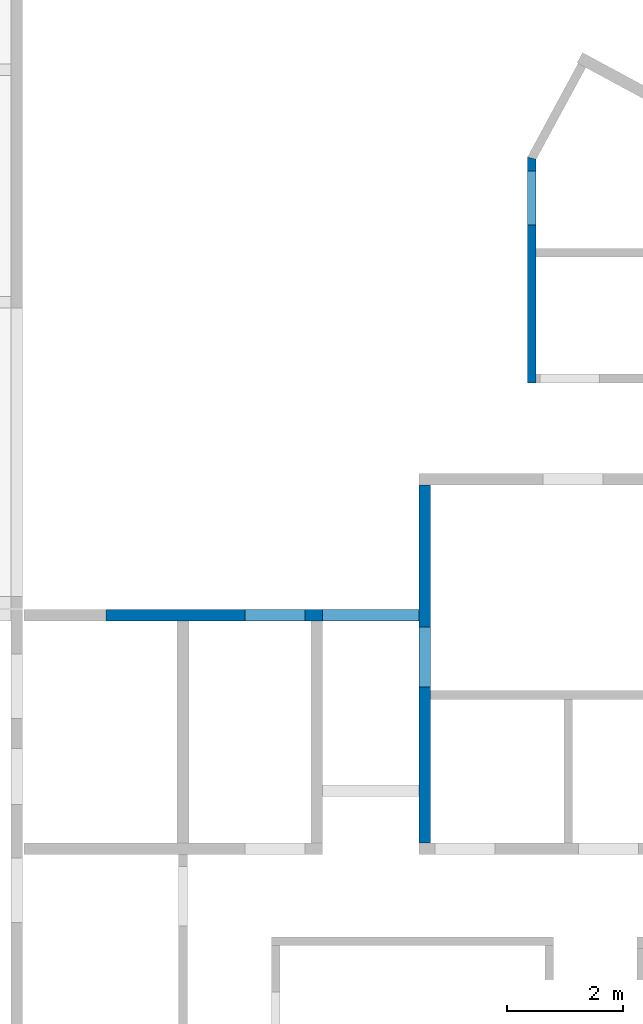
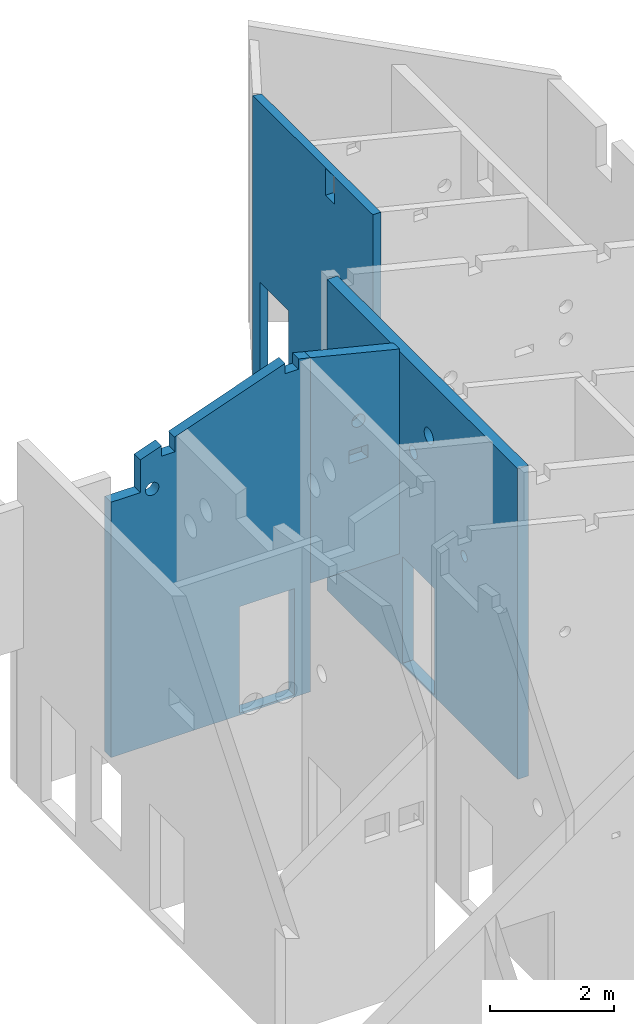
# One storey, part 10 of 13: 4 walls, 14 openings.
"""IFC2X3 building model written with IfcOpenShell, lengths in metres."""

from ifc_helpers import new_model, entity, si_unit, converted_unit, direction, frame, frame_2d, origin, origin_with_axes, place, context, subcontext, project, spatial, polyline, rectangle, outline, extrude, clip, halfspace, bounded_halfspace, material, layer, layer_set, layer_usage, element, save


model = new_model("IFC2X3")

# Units and contexts
model_context = context("Model", 3, precision=1e-05, world=origin(), true_north=direction((-0.407059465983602, -0.913401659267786)))
body_context = subcontext(model_context, "Body", "Model", "MODEL_VIEW")
ifc_project = project(units=[si_unit("LENGTHUNIT", "METRE"), si_unit("AREAUNIT", "SQUARE_METRE"), si_unit("VOLUMEUNIT", "CUBIC_METRE"), si_unit("MASSUNIT", "GRAM", prefix="KILO"), converted_unit("PLANEANGLEUNIT", "DEGREE", entity("IfcPlaneAngleMeasure", 0.0174532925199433), si_unit("PLANEANGLEUNIT", "RADIAN"), dimensions=[0, 0, 0, 0, 0, 0, 0])], contexts=[model_context])

# Site, buildings, storey
site_placement = place(None, origin())
site = spatial("IfcSite", under=ifc_project, at=site_placement, Name="Site", CompositionType="ELEMENT")
building_1_placement = place(site_placement, origin())
building_1 = spatial("IfcBuilding", under=site, at=building_1_placement, Name="Site", CompositionType="COMPLEX")
building_2_placement = place(building_1_placement, origin())
building_2 = spatial("IfcBuilding", under=building_1, at=building_2_placement, Name="Bâtiments", CompositionType="ELEMENT")
storey_placement = place(building_2_placement, frame((0.0, 0.0, -0.14)))
storey = spatial("IfcBuildingStorey", under=building_2, at=storey_placement, Name="RDC", CompositionType="ELEMENT", Elevation=-0.14)

# Wall, openings
ifc_material_1 = material(Name="Mur_Maconnerie")
ifc_layer_1 = layer(ifc_material_1, 0.15)
ifc_layer_set_1 = layer_set([ifc_layer_1])
ifc_layer_usage_1 = layer_usage(ifc_layer_set_1, "AXIS2", "POSITIVE", 0.0)
wall_1_placement = place(storey_placement, frame((72.1039888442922, 2.54981542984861, 0.02), z_axis=(0.0, 0.0, 1.0), x_axis=(0.0, -1.0, 0.0)))
wall_1 = element("IfcWallStandardCase", 1, at=wall_1_placement, inside=storey, material=ifc_layer_usage_1, context=body_context, shape_type="SweptSolid", body=[
    extrude(outline(polyline([(-3.88498872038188, 0.0), (0.0, 0.0), (0.0, 0.15), (-3.84703946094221, 0.15), (-3.88498872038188, 0.0)])), frame((3.88498872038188, 0.0, 0.0), z_axis=(0.0, 0.0, 1.0), x_axis=(1.0, 0.0, 0.0)), (0.0, 0.0, 1.0), 5.764675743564),
])
opening_1_placement = place(wall_1_placement, frame((2.35183954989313, 0.0, 5.22), z_axis=(0.0, 1.0, 0.0), x_axis=(0.0, 0.0, 1.0)))
element("IfcOpeningElement", 2, at=opening_1_placement, cuts=wall_1, Name="Percement dans mur", ObjectType="Opening", context=body_context, shape_type="SweptSolid", body=[
    extrude(outline(polyline([(0.0, 0.3), (0.54, 0.3), (0.54, 0.0), (0.0, 0.0), (0.0, 0.3)])), origin_with_axes(), (0.0, 0.0, 1.0), 0.15),
])
opening_2_placement = place(wall_1_placement, frame((0.236136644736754, 0.0, 0.12), z_axis=(0.0, 1.0, 0.0), x_axis=(0.0, 0.0, 1.0)))
element("IfcOpeningElement", 3, at=opening_2_placement, cuts=wall_1, Name="Baie de porte", ObjectType="Opening", context=body_context, shape_type="SweptSolid", body=[
    extrude(outline(polyline([(0.0, 0.93), (2.1, 0.93), (2.1, 0.0), (0.0, 0.0), (0.0, 0.93)])), origin_with_axes(), (0.0, 0.0, 1.0), 0.15),
])

ifc_material_2 = material(Name="Mur_Maconnerie")
ifc_layer_2 = layer(ifc_material_2, 0.2)
ifc_layer_set_2 = layer_set([ifc_layer_2])
ifc_layer_usage_2 = layer_usage(ifc_layer_set_2, "AXIS2", "POSITIVE", 0.0)
wall_2_placement = place(storey_placement, frame((70.2328423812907, -3.0956538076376, 0.1), z_axis=(0.0, 0.0, 1.0), x_axis=(0.0, -1.0, 0.0)))
wall_2 = element("IfcWallStandardCase", 4, at=wall_2_placement, inside=storey, material=ifc_layer_usage_2, context=body_context, shape_type="SweptSolid", body=[
    extrude(outline(polyline([(-6.16179983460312, 0.0), (-1.50847238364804e-06, 0.0), (0.0, 0.2), (-6.16180875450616, 0.2), (-6.16179983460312, 0.0)])), frame((6.16179983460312, 0.0, 0.0), z_axis=(0.0, 0.0, 1.0), x_axis=(1.0, 0.0, 0.0)), (0.0, 0.0, 1.0), 6.13199221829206),
])
opening_3_placement = place(wall_2_placement, frame((4.33431864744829, 0.0, 3.26), z_axis=(0.0, 1.0, 0.0), x_axis=(0.0, 0.0, 1.0)))
element("IfcOpeningElement", 5, at=opening_3_placement, cuts=wall_2, Name="CVC-087", ObjectType="Opening", context=body_context, shape_type="SweptSolid", body=[
    extrude(outline(polyline([(0.0999999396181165, 0.0), (0.0895470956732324, 0.000547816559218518), (0.0792087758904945, 0.00218525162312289), (0.0690982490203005, 0.00489436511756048), (0.0593262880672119, 0.00864547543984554), (0.0499999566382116, 0.0133974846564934), (0.0412214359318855, 0.0190983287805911), (0.0330869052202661, 0.0256855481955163), (0.0256854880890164, 0.0330869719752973), (0.0190982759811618, 0.0412215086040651), (0.0133974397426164, 0.0500000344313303), (0.0086454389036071, 0.0593263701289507), (0.00489433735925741, 0.0690983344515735), (0.00218523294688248, 0.0792088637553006), (0.000547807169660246, 0.0895471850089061), (0.0, 0.100000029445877), (0.000547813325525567, 0.110452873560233), (0.00218524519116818, 0.120791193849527), (0.00489435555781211, 0.130901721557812), (0.0086454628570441, 0.140673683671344), (0.0133974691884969, 0.150000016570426), (0.0190983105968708, 0.158778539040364), (0.0256855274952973, 0.166913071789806), (0.0330869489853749, 0.174314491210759), (0.0412214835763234, 0.180901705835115), (0.0500000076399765, 0.186602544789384), (0.0593263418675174, 0.191354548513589), (0.0690983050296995, 0.195105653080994), (0.0792088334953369, 0.197814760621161), (0.0895471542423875, 0.199452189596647), (0.0999999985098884, 0.2), (0.110452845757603, 0.199452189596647), (0.120791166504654, 0.197814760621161), (0.130901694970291, 0.195105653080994), (0.140673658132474, 0.191354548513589), (0.149999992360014, 0.186602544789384), (0.158778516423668, 0.180901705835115), (0.166913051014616, 0.174314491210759), (0.174314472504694, 0.166913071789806), (0.18090168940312, 0.158778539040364), (0.186602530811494, 0.150000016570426), (0.191354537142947, 0.140673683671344), (0.195105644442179, 0.130901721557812), (0.197814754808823, 0.120791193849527), (0.199452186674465, 0.110452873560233), (0.199999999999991, 0.100000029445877), (0.199452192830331, 0.0895471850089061), (0.197814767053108, 0.0792088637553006), (0.195105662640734, 0.0690983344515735), (0.191354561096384, 0.0593263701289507), (0.186602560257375, 0.0500000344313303), (0.180901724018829, 0.0412215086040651), (0.174314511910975, 0.0330869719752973), (0.166913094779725, 0.0256855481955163), (0.158778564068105, 0.0190983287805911), (0.150000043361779, 0.0133974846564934), (0.140673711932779, 0.00864547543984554), (0.13090175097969, 0.00489436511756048), (0.120791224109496, 0.00218525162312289), (0.110452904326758, 0.000547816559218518), (0.0999999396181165, 0.0)])), origin_with_axes(), (0.0, 0.0, 1.0), 0.2),
])
opening_4_placement = place(wall_2_placement, frame((2.66823580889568, 0.0, 4.29), z_axis=(0.0, 1.0, 0.0), x_axis=(0.0, 0.0, 1.0)))
element("IfcOpeningElement", 6, at=opening_4_placement, cuts=wall_2, Name="CVC-078", ObjectType="Opening", context=body_context, shape_type="SweptSolid", body=[
    extrude(outline(polyline([(0.124999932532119, 0.0), (0.111933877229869, 0.000684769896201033), (0.0990109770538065, 0.00273156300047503), (0.0863728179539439, 0.00611795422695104), (0.0741578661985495, 0.0108068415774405), (0.0624999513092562, 0.0167468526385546), (0.051526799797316, 0.0238729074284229), (0.0413586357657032, 0.0321069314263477), (0.0321068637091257, 0.0413587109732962), (0.0238728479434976, 0.0515268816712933), (0.0167468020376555, 0.0625000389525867), (0.01080680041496, 0.074157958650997), (0.00611792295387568, 0.0863729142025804), (0.00273154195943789, 0.0990110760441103), (0.000684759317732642, 0.111933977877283), (0.0, 0.125000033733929), (0.000684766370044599, 0.138066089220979), (0.00273155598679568, 0.150988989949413), (0.00611794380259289, 0.163627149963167), (0.0108068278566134, 0.175842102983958), (0.0167468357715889, 0.187500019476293), (0.0238728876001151, 0.198473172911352), (0.0321069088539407, 0.208641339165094), (0.0413586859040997, 0.217893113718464), (0.0515268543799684, 0.22612713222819), (0.0625000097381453, 0.233253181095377), (0.0741579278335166, 0.239193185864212), (0.0863728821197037, 0.243882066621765), (0.0990110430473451, 0.247268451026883), (0.111933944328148, 0.249315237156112), (0.124999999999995, 0.25), (0.138066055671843, 0.249315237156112), (0.150988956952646, 0.247268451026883), (0.163627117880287, 0.243882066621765), (0.175842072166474, 0.239193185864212), (0.187499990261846, 0.233253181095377), (0.198473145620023, 0.22612713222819), (0.208641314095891, 0.217893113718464), (0.21789309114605, 0.208641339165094), (0.226127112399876, 0.198473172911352), (0.233253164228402, 0.187500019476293), (0.239193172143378, 0.175842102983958), (0.243882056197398, 0.163627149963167), (0.247268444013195, 0.150988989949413), (0.249315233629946, 0.138066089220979), (0.249999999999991, 0.125000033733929), (0.249315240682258, 0.111933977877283), (0.247268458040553, 0.0990110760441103), (0.243882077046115, 0.0863729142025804), (0.239193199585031, 0.074157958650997), (0.233253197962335, 0.0625000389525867), (0.226127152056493, 0.0515268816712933), (0.217893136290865, 0.0413587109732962), (0.208641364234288, 0.0321069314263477), (0.198473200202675, 0.0238729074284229), (0.187500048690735, 0.0167468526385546), (0.175842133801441, 0.0108068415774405), (0.163627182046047, 0.00611795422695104), (0.150989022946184, 0.00273156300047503), (0.138066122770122, 0.000684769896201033), (0.124999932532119, 0.0)])), origin_with_axes(), (0.0, 0.0, 1.0), 0.2),
])
opening_5_placement = place(wall_2_placement, frame((3.14198179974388, 0.0, 4.89000000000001), z_axis=(0.0, 1.0, 0.0), x_axis=(0.0, 0.0, 1.0)))
element("IfcOpeningElement", 7, at=opening_5_placement, cuts=wall_2, Name="CVC-081", ObjectType="Opening", context=body_context, shape_type="SweptSolid", body=[
    extrude(outline(polyline([(0.149999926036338, 0.0), (0.134320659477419, 0.000821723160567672), (0.118813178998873, 0.00327787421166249), (0.103647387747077, 0.00734154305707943), (0.0889894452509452, 0.0129682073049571), (0.0749999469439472, 0.0200962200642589), (0.0618321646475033, 0.0286474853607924), (0.0496303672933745, 0.0385283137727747), (0.0385282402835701, 0.0496304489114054), (0.0286474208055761, 0.0618322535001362), (0.0200961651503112, 0.0750000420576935), (0.0129681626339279, 0.0889895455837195), (0.00734150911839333, 0.103647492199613), (0.0032778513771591, 0.118813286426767), (0.000821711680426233, 0.134320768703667), (0.0, 0.150000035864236), (0.000821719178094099, 0.16567930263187), (0.00327786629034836, 0.181186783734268), (0.00734153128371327, 0.196352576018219), (0.0129681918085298, 0.211010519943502), (0.0200962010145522, 0.225000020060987), (0.0286474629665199, 0.23816780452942), (0.0385282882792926, 0.25036960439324), (0.0496304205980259, 0.261471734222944), (0.0618322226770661, 0.271352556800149), (0.0750000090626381, 0.27990381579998), (0.0889895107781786, 0.287031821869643), (0.103647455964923, 0.29265847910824), (0.118813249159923, 0.296722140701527), (0.134320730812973, 0.2991782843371), (0.14999999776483, 0.3), (0.165679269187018, 0.2991782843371), (0.181186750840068, 0.296722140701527), (0.196352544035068, 0.29265847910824), (0.211010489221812, 0.287031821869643), (0.224999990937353, 0.27990381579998), (0.238167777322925, 0.271352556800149), (0.250369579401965, 0.261471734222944), (0.261471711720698, 0.25036960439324), (0.271352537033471, 0.23816780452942), (0.279903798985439, 0.225000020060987), (0.287031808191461, 0.211010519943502), (0.292658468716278, 0.196352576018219), (0.296722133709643, 0.181186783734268), (0.299178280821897, 0.16567930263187), (0.299999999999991, 0.150000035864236), (0.299178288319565, 0.134320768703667), (0.296722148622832, 0.118813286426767), (0.292658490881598, 0.103647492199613), (0.287031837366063, 0.0889895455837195), (0.27990383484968, 0.0750000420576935), (0.271352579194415, 0.0618322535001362), (0.261471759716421, 0.0496304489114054), (0.250369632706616, 0.0385283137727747), (0.238167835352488, 0.0286474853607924), (0.225000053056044, 0.0200962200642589), (0.211010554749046, 0.0129682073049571), (0.196352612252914, 0.00734154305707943), (0.181186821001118, 0.00327787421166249), (0.165679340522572, 0.000821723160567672), (0.149999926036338, 0.0)])), origin_with_axes(), (0.0, 0.0, 1.0), 0.2),
])
opening_6_placement = place(wall_2_placement, frame((3.47708316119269, 0.2, 0.04), z_axis=(0.0, -1.0, 0.0), x_axis=(0.0, 0.0, 1.0)))
element("IfcOpeningElement", 8, at=opening_6_placement, cuts=wall_2, Name="Baie de porte", ObjectType="Opening", context=body_context, shape_type="SweptSolid", body=[
    extrude(outline(polyline([(0.0, 1.03), (2.1, 1.03), (2.1, 0.0), (0.0, 0.0), (0.0, 1.03)])), origin_with_axes(), (0.0, 0.0, 1.0), 0.2),
])

ifc_material_3 = material(Name="Béton")
ifc_layer_3 = layer(ifc_material_3, 0.200000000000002)
ifc_layer_set_3 = layer_set([ifc_layer_3])
ifc_layer_usage_3 = layer_usage(ifc_layer_set_3, "AXIS2", "POSITIVE", -0.2)
wall_3_placement = place(storey_placement, frame((64.8473800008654, -5.43896696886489, 0.0999999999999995), z_axis=(0.0, 0.0, 1.0), x_axis=(1.0, 1.2205397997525e-15, 0.0)))
wall_3 = element("IfcWallStandardCase", 9, at=wall_3_placement, inside=storey, material=ifc_layer_usage_3, context=body_context, shape_type="Clipping", body=[
    clip(clip(clip(extrude(rectangle(XDim=3.7257887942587, YDim=0.200000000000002, at=frame_2d((1.86289439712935, 0.100000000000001), x_axis=(1.0, 0.0))), origin_with_axes(), (0.0, 0.0, 1.0), 6.67977521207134), bounded_halfspace(frame((1.76161150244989, 0.100000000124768, 6.11385859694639), z_axis=(0.334629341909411, -1.7905456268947e-15, -0.942349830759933), x_axis=(0.942349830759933, 2.12245910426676e-16, 0.334629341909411)), True, origin_with_axes(), polyline([(0.20992572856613, -2.56222706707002e-16), (3.35528952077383, 4.52209109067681e-16), (3.35528952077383, 0.200000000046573), (0.125941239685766, 0.200000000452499), (0.20992572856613, -2.56222706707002e-16)]))), bounded_halfspace(frame((0.0839667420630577, 0.100000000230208, 5.5478780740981), z_axis=(2.15176859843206e-06, -0.147291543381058, -0.989093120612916), x_axis=(0.999999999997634, -1.22053979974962e-15, 2.17549647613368e-06)), True, origin_with_axes(), polyline([(-7.27595761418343e-15, 8.88059584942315e-30), (0.20992572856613, -2.56222706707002e-16), (0.125941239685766, 0.200000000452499), (3.42214115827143e-13, 0.20000000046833), (-7.27595761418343e-15, 8.88059584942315e-30)]))), bounded_halfspace(frame((3.54053915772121, 0.100000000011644, 6.63427353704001), z_axis=(-0.238533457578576, 1.15160305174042e-15, -0.971134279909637), x_axis=(4.09876642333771e-09, 1.0, -1.00675151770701e-09)), True, origin_with_axes(), polyline([(3.7257887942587, 0.0), (3.72578879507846, 0.200000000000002), (3.35528952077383, 0.200000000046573), (3.35528952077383, 4.52209109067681e-16), (3.7257887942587, 0.0)]))),
])
opening_7_placement = place(wall_3_placement, frame((3.25139880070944, 5.79011867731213e-16, 6.44), z_axis=(2.27373675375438e-15, 1.0, 0.0), x_axis=(0.0, 0.0, 1.0)))
element("IfcOpeningElement", 10, at=opening_7_placement, cuts=wall_3, Name="Percement dans mur", ObjectType="Opening", context=body_context, shape_type="SweptSolid", body=[
    extrude(outline(polyline([(0.0, 0.25), (0.24, 0.25), (0.24, 0.0), (0.0, 0.0), (0.0, 0.25)])), origin_with_axes(), (0.0, 0.0, 1.0), 0.200000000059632),
])
opening_8_placement = place(wall_3_placement, frame((0.645786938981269, 1.03078074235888e-15, 4.91), z_axis=(1.13686837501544e-15, 1.0, 0.0), x_axis=(0.0, 0.0, 1.0)))
element("IfcOpeningElement", 11, at=opening_8_placement, cuts=wall_3, Name="CVC-126", ObjectType="Opening", context=body_context, shape_type="SweptSolid", body=[
    extrude(outline(polyline([(0.124999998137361, 0.0), (0.111933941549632, 0.000684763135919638), (0.0990110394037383, 0.00273154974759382), (0.0863728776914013, 0.00611793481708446), (0.0741579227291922, 0.0108068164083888), (0.0625000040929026, 0.0167468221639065), (0.0515268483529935, 0.0238728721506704), (0.04135867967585, 0.0321068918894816), (0.0321069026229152, 0.0413586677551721), (0.0238728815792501, 0.0515268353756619), (0.0167468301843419, 0.0624999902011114), (0.0108068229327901, 0.0741579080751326), (0.00611793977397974, 0.0863728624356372), (0.00273155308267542, 0.0990110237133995), (0.000684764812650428, 0.111933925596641), (0.0, 0.124999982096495), (0.000684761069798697, 0.138066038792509), (0.00273154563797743, 0.150988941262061), (0.00611792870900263, 0.163627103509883), (0.010806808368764, 0.175842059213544), (0.0167468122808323, 0.187499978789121), (0.0238728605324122, 0.19847313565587), (0.0321068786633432, 0.20864130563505), (0.0413586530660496, 0.21789308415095), (0.0515268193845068, 0.226127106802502), (0.0624999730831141, 0.233253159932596), (0.074157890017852, 0.239193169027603), (0.0863728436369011, 0.243882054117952), (0.0990110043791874, 0.247268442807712), (0.111933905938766, 0.249315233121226), (0.124999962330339, 0.250000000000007), (0.138066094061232, 0.249315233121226), (0.150988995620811, 0.247268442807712), (0.163627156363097, 0.243882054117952), (0.175842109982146, 0.239193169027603), (0.187500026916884, 0.233253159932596), (0.198473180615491, 0.226127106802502), (0.208641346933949, 0.21789308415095), (0.217893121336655, 0.20864130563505), (0.226127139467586, 0.19847313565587), (0.233253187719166, 0.187499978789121), (0.239193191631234, 0.175842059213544), (0.243882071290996, 0.163627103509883), (0.247268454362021, 0.150988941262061), (0.2493152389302, 0.138066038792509), (0.249999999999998, 0.124999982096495), (0.249315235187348, 0.111933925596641), (0.247268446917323, 0.0990110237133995), (0.243882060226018, 0.0863728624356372), (0.239193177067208, 0.0741579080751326), (0.233253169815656, 0.0624999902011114), (0.226127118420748, 0.0515268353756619), (0.217893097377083, 0.0413586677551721), (0.208641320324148, 0.0321068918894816), (0.198473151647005, 0.0238728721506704), (0.187499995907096, 0.0167468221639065), (0.175842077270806, 0.0108068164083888), (0.163627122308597, 0.00611793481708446), (0.15098896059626, 0.00273154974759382), (0.138066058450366, 0.000684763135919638), (0.124999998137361, 0.0)])), origin_with_axes(), (0.0, 0.0, 1.0), 0.200000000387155),
])
opening_9_placement = place(wall_3_placement, frame((0.946821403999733, 6.63356196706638e-16, 5.62), z_axis=(1.13686837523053e-15, 1.0, 0.0), x_axis=(0.0, 0.0, 1.0)))
element("IfcOpeningElement", 12, at=opening_9_placement, cuts=wall_3, Name="Percement dans mur", ObjectType="Opening", context=body_context, shape_type="SweptSolid", body=[
    extrude(outline(polyline([(0.0, 0.25), (0.29, 0.25), (0.29, 0.0), (0.0, 0.0), (0.0, 0.25)])), origin_with_axes(), (0.0, 0.0, 1.0), 0.200000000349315),
])
opening_10_placement = place(wall_3_placement, frame((7.27595761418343e-15, -8.88059584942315e-30, 5.04), z_axis=(1.2205397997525e-15, 1.0, 0.0), x_axis=(0.0, 0.0, 1.0)))
element("IfcOpeningElement", 13, at=opening_10_placement, cuts=wall_3, Name="Percement dans mur", ObjectType="Opening", context=body_context, shape_type="SweptSolid", body=[
    extrude(outline(polyline([(0.0, 0.549999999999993), (0.65, 0.549999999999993), (0.65, 0.0), (0.0, 0.0), (0.0, 0.549999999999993)])), origin_with_axes(), (0.0, 0.0, 1.0), 0.20000000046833),
])
opening_11_placement = place(wall_3_placement, frame((2.39578667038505, -1.95668877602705e-16, 0.0400000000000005), z_axis=(2.27373675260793e-15, 1.0, 0.0), x_axis=(0.0, 0.0, 1.0)))
element("IfcOpeningElement", 14, at=opening_11_placement, cuts=wall_3, Name="Baie de porte", ObjectType="Opening", context=body_context, shape_type="SweptSolid", body=[
    extrude(outline(polyline([(0.0, 1.03), (2.1, 1.03), (2.1, 0.0), (0.0, 0.0), (0.0, 1.03)])), origin_with_axes(), (0.0, 0.0, 1.0), 0.200000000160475),
])

ifc_material_4 = material(Name="Mur_Maconnerie")
ifc_layer_4 = layer(ifc_material_4, 0.2)
ifc_layer_set_4 = layer_set([ifc_layer_4])
ifc_layer_usage_4 = layer_usage(ifc_layer_set_4, "AXIS2", "POSITIVE", -0.2)
wall_4_placement = place(storey_placement, frame((68.5731687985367, -5.43896696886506, 0.14)))
wall_4 = element("IfcWallStandardCase", 15, at=wall_4_placement, inside=storey, material=ifc_layer_usage_4, context=body_context, shape_type="Clipping", body=[
    clip(extrude(rectangle(XDim=1.65967358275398, YDim=0.2, at=frame_2d((0.829836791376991, 0.1), x_axis=(1.0, 0.0))), origin_with_axes(), (0.0, 0.0, 1.0), 6.54877186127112), halfspace(frame((0.829836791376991, 0.1, 6.34494439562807), z_axis=(-0.238533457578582, 0.0, -0.971134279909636), x_axis=(0.971134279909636, 0.0, -0.238533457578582)), True)),
])
opening_12_placement = place(wall_4_placement, frame((0.718893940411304, 0.0, 4.21), z_axis=(0.0, 1.0, 0.0), x_axis=(0.0, 0.0, 1.0)))
element("IfcOpeningElement", 16, at=opening_12_placement, cuts=wall_4, Name="CVC-127", ObjectType="Opening", context=body_context, shape_type="SweptSolid", body=[
    extrude(outline(polyline([(0.0, 0.350000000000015), (0.25, 0.350000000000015), (0.25, 0.0), (0.0, 0.0), (0.0, 0.350000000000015)])), origin_with_axes(), (0.0, 0.0, 1.0), 0.2),
])
opening_13_placement = place(wall_4_placement, frame((0.768893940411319, 9.09494701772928e-16, 4.87000000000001), z_axis=(0.0, 1.0, 0.0), x_axis=(0.0, 0.0, 1.0)))
element("IfcOpeningElement", 17, at=opening_13_placement, cuts=wall_4, Name="CVC-125", ObjectType="Opening", context=body_context, shape_type="SweptSolid", body=[
    extrude(outline(polyline([(0.12499991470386, 0.0), (0.111933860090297, 0.00068477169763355), (0.0990109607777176, 0.002731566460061), (0.0863728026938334, 0.00611795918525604), (0.0741578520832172, 0.0108068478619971), (0.0624999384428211, 0.0167468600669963), (0.0515267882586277, 0.023872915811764), (0.0413586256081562, 0.0321069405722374), (0.0321068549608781, 0.0413587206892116), (0.02387284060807, 0.0515268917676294), (0.0167467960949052, 0.062500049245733), (0.0108067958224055, 0.074157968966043), (0.00611791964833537, 0.0863729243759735), (0.00273153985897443, 0.0990110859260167), (0.000684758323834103, 0.111933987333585), (0.0, 0.125000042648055), (0.000684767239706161, 0.138066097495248), (0.00273155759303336, 0.150988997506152), (0.00611794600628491, 0.163627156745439), (0.0108068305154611, 0.175842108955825), (0.0167468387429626, 0.187500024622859), (0.023872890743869, 0.198473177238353), (0.0321069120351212, 0.20864134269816), (0.041358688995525, 0.217893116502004), (0.0515268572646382, 0.226127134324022), (0.0625000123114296, 0.233253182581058), (0.0741579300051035, 0.239193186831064), (0.0863728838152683, 0.243882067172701), (0.0990110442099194, 0.247268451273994), (0.111933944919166, 0.249315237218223), (0.124999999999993, 0.25), (0.13806605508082, 0.249315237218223), (0.150988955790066, 0.247268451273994), (0.163627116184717, 0.243882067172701), (0.175842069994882, 0.239193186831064), (0.187499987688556, 0.233253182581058), (0.198473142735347, 0.226127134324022), (0.20864131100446, 0.217893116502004), (0.217893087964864, 0.20864134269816), (0.226127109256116, 0.198473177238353), (0.233253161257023, 0.187500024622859), (0.239193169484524, 0.175842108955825), (0.243882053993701, 0.163627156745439), (0.247268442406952, 0.150988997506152), (0.249315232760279, 0.138066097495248), (0.249999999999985, 0.125000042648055), (0.249315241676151, 0.111933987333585), (0.247268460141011, 0.0990110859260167), (0.24388208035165, 0.0863729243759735), (0.23919320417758, 0.074157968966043), (0.23325320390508, 0.062500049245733), (0.226127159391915, 0.0515268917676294), (0.217893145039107, 0.0413587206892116), (0.208641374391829, 0.0321069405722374), (0.198473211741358, 0.023872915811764), (0.187500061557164, 0.0167468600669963), (0.175842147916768, 0.0108068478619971), (0.163627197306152, 0.00611795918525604), (0.150989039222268, 0.002731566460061), (0.138066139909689, 0.00068477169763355), (0.12499991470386, 0.0)])), origin_with_axes(), (0.0, 0.0, 1.0), 0.2),
])
opening_14_placement = place(wall_4_placement, frame((1.65967358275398, 0.2, 0.0), z_axis=(0.0, -1.0, 0.0), x_axis=(0.0, 0.0, 1.0)))
element("IfcOpeningElement", 18, at=opening_14_placement, cuts=wall_4, Name="Baie de porte", ObjectType="Opening", context=body_context, shape_type="SweptSolid", body=[
    extrude(outline(polyline([(0.0, 1.65967358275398), (2.1, 1.65967358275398), (2.1, 0.0), (0.0, 0.0), (0.0, 1.65967358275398)])), origin_with_axes(), (0.0, 0.0, 1.0), 0.2),
])

save(model, "model.ifc")
